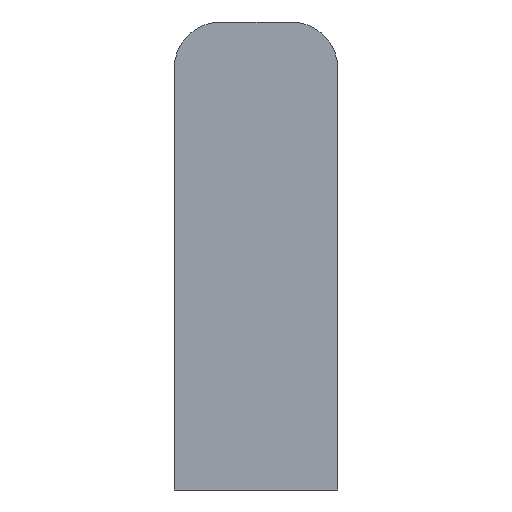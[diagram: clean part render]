
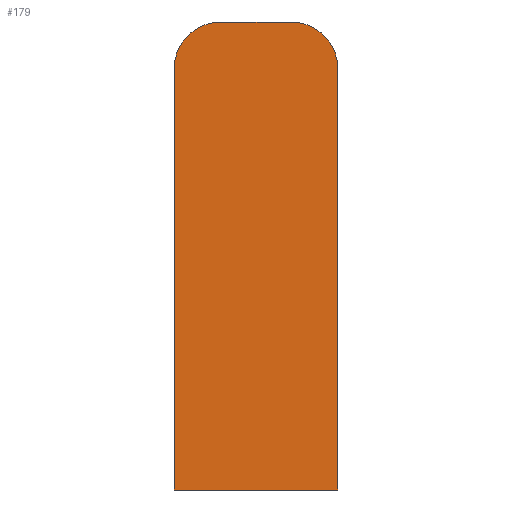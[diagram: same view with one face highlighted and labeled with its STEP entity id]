
A CAD part, front view. The second image highlights one B-rep face of the part: STEP entity #179.
In plain terms, the highlighted planar face has unit normal (0, -1, 0).
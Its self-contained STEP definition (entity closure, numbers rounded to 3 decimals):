
#10 = DIRECTION ( 'NONE',  ( -1., 0., 0. ) ) ;
#11 = DIRECTION ( 'NONE',  ( 0., 1., 0. ) ) ;
#13 = PLANE ( 'NONE',  #397 ) ;
#14 = CARTESIAN_POINT ( 'NONE',  ( 0., 0., -1.5 ) ) ;
#51 = CARTESIAN_POINT ( 'NONE',  ( -2.25, 0., 10.5 ) ) ;
#55 = DIRECTION ( 'NONE',  ( 0., -1., 0. ) ) ;
#58 = DIRECTION ( 'NONE',  ( -1., 0., 0. ) ) ;
#78 = CARTESIAN_POINT ( 'NONE',  ( 5.25, 0., -16.5 ) ) ;
#79 = DIRECTION ( 'NONE',  ( 1., 0., 0. ) ) ;
#90 = CARTESIAN_POINT ( 'NONE',  ( 2.25, 0., 13.5 ) ) ;
#91 = DIRECTION ( 'NONE',  ( -1., 0., 0. ) ) ;
#95 = CARTESIAN_POINT ( 'NONE',  ( 2.25, 0., 10.5 ) ) ;
#96 = DIRECTION ( 'NONE',  ( 0., -1., 0. ) ) ;
#97 = DIRECTION ( 'NONE',  ( -1., 0., 0. ) ) ;
#100 = CARTESIAN_POINT ( 'NONE',  ( -5.25, 0., -16.5 ) ) ;
#101 = DIRECTION ( 'NONE',  ( 0., 0., -1. ) ) ;
#109 = CARTESIAN_POINT ( 'NONE',  ( 5.25, 0., -16.5 ) ) ;
#115 = DIRECTION ( 'NONE',  ( 0., 0., 1. ) ) ;
#129 = CARTESIAN_POINT ( 'NONE',  ( -5.25, 0., 10.5 ) ) ;
#146 = CARTESIAN_POINT ( 'NONE',  ( -5.25, 0., -16.5 ) ) ;
#150 = CARTESIAN_POINT ( 'NONE',  ( 5.25, 0., -16.5 ) ) ;
#152 = CARTESIAN_POINT ( 'NONE',  ( -2.25, 0., 13.5 ) ) ;
#153 = CARTESIAN_POINT ( 'NONE',  ( 5.25, 0., 10.5 ) ) ;
#154 = CARTESIAN_POINT ( 'NONE',  ( 2.25, 0., 13.5 ) ) ;
#179 = ADVANCED_FACE ( 'NONE', ( #198 ), #13, .F. ) ;
#198 = FACE_OUTER_BOUND ( 'NONE', #255, .T. ) ;
#224 = ORIENTED_EDGE ( 'NONE', *, *, #419, .T. ) ;
#255 = EDGE_LOOP ( 'NONE', ( #224, #258, #259, #264, #263, #265 ) ) ;
#258 = ORIENTED_EDGE ( 'NONE', *, *, #406, .T. ) ;
#259 = ORIENTED_EDGE ( 'NONE', *, *, #401, .T. ) ;
#263 = ORIENTED_EDGE ( 'NONE', *, *, #408, .T. ) ;
#264 = ORIENTED_EDGE ( 'NONE', *, *, #373, .T. ) ;
#265 = ORIENTED_EDGE ( 'NONE', *, *, #391, .T. ) ;
#283 = VECTOR ( 'NONE', #79, 1000. ) ;
#286 = VECTOR ( 'NONE', #91, 1000. ) ;
#287 = LINE ( 'NONE', #90, #286 ) ;
#291 = LINE ( 'NONE', #78, #283 ) ;
#317 = CIRCLE ( 'NONE', #387, 3. ) ;
#318 = LINE ( 'NONE', #100, #319 ) ;
#319 = VECTOR ( 'NONE', #101, 1000. ) ;
#324 = VECTOR ( 'NONE', #115, 1000. ) ;
#328 = LINE ( 'NONE', #109, #324 ) ;
#362 = CIRCLE ( 'NONE', #430, 3. ) ;
#373 = EDGE_CURVE ( 'NONE', #460, #445, #362, .T. ) ;
#387 = AXIS2_PLACEMENT_3D ( 'NONE', #95, #96, #97 ) ;
#391 = EDGE_CURVE ( 'NONE', #450, #454, #291, .T. ) ;
#397 = AXIS2_PLACEMENT_3D ( 'NONE', #14, #11, #10 ) ;
#401 = EDGE_CURVE ( 'NONE', #463, #460, #287, .T. ) ;
#406 = EDGE_CURVE ( 'NONE', #462, #463, #317, .T. ) ;
#408 = EDGE_CURVE ( 'NONE', #445, #450, #318, .T. ) ;
#419 = EDGE_CURVE ( 'NONE', #454, #462, #328, .T. ) ;
#430 = AXIS2_PLACEMENT_3D ( 'NONE', #51, #55, #58 ) ;
#445 = VERTEX_POINT ( 'NONE', #129 ) ;
#450 = VERTEX_POINT ( 'NONE', #146 ) ;
#454 = VERTEX_POINT ( 'NONE', #150 ) ;
#460 = VERTEX_POINT ( 'NONE', #152 ) ;
#462 = VERTEX_POINT ( 'NONE', #153 ) ;
#463 = VERTEX_POINT ( 'NONE', #154 ) ;
